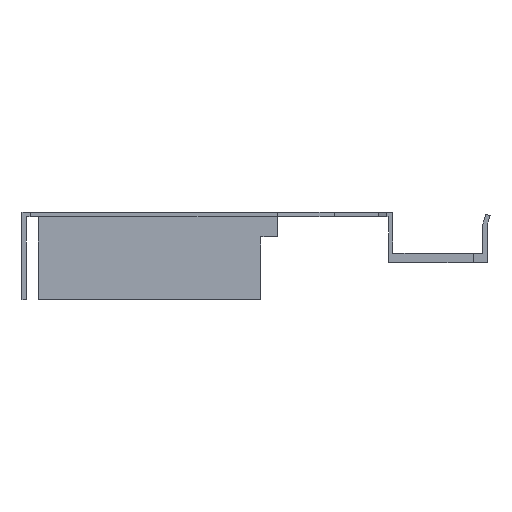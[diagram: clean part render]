
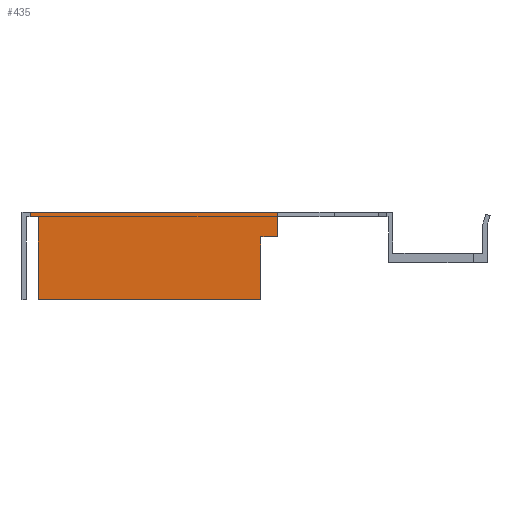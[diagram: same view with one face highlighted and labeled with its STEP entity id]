
A CAD part, left-side view. The second image highlights one B-rep face of the part: STEP entity #435.
In plain terms, the highlighted planar face has unit normal (-1, 0, 0).
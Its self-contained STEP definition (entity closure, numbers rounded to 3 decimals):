
#36 = EDGE_LOOP ( 'NONE', ( #764, #763, #762, #761, #760, #759, #758, #757 ) ) ;
#96 = FACE_OUTER_BOUND ( 'NONE', #36, .T. ) ;
#156 = LINE ( 'NONE', #1298, #157 ) ;
#157 = VECTOR ( 'NONE', #1299, 1000. ) ;
#174 = LINE ( 'NONE', #1331, #193 ) ;
#176 = LINE ( 'NONE', #1337, #197 ) ;
#183 = LINE ( 'NONE', #1327, #184 ) ;
#184 = VECTOR ( 'NONE', #1328, 1000. ) ;
#188 = LINE ( 'NONE', #1341, #201 ) ;
#191 = LINE ( 'NONE', #1335, #192 ) ;
#192 = VECTOR ( 'NONE', #1336, 1000. ) ;
#193 = VECTOR ( 'NONE', #1338, 1000. ) ;
#197 = VECTOR ( 'NONE', #1342, 1000. ) ;
#201 = VECTOR ( 'NONE', #1346, 1000. ) ;
#320 = LINE ( 'NONE', #1486, #336 ) ;
#336 = VECTOR ( 'NONE', #1499, 1000. ) ;
#379 = LINE ( 'NONE', #1545, #380 ) ;
#380 = VECTOR ( 'NONE', #1546, 1000. ) ;
#435 = ADVANCED_FACE ( 'NONE', ( #96 ), #1165, .T. ) ;
#522 = EDGE_CURVE ( 'NONE', #1060, #1030, #156, .T. ) ;
#536 = EDGE_CURVE ( 'NONE', #996, #1060, #183, .T. ) ;
#540 = EDGE_CURVE ( 'NONE', #1047, #992, #191, .T. ) ;
#541 = EDGE_CURVE ( 'NONE', #986, #1046, #174, .T. ) ;
#543 = EDGE_CURVE ( 'NONE', #1006, #996, #176, .T. ) ;
#545 = EDGE_CURVE ( 'NONE', #1030, #1046, #188, .T. ) ;
#607 = AXIS2_PLACEMENT_3D ( 'NONE', #1168, #1174, #1175 ) ;
#757 = ORIENTED_EDGE ( 'NONE', *, *, #827, .F. ) ;
#758 = ORIENTED_EDGE ( 'NONE', *, *, #541, .F. ) ;
#759 = ORIENTED_EDGE ( 'NONE', *, *, #545, .T. ) ;
#760 = ORIENTED_EDGE ( 'NONE', *, *, #522, .T. ) ;
#761 = ORIENTED_EDGE ( 'NONE', *, *, #536, .T. ) ;
#762 = ORIENTED_EDGE ( 'NONE', *, *, #543, .T. ) ;
#763 = ORIENTED_EDGE ( 'NONE', *, *, #850, .F. ) ;
#764 = ORIENTED_EDGE ( 'NONE', *, *, #540, .F. ) ;
#827 = EDGE_CURVE ( 'NONE', #992, #986, #320, .T. ) ;
#850 = EDGE_CURVE ( 'NONE', #1006, #1047, #379, .T. ) ;
#986 = VERTEX_POINT ( 'NONE', #1579 ) ;
#992 = VERTEX_POINT ( 'NONE', #1585 ) ;
#996 = VERTEX_POINT ( 'NONE', #1589 ) ;
#1006 = VERTEX_POINT ( 'NONE', #1599 ) ;
#1030 = VERTEX_POINT ( 'NONE', #1623 ) ;
#1046 = VERTEX_POINT ( 'NONE', #1639 ) ;
#1047 = VERTEX_POINT ( 'NONE', #1640 ) ;
#1060 = VERTEX_POINT ( 'NONE', #1653 ) ;
#1165 = PLANE ( 'NONE',  #607 ) ;
#1168 = CARTESIAN_POINT ( 'NONE',  ( -817., -16.5, 0. ) ) ;
#1174 = DIRECTION ( 'NONE',  ( -1., 0., 0. ) ) ;
#1175 = DIRECTION ( 'NONE',  ( 0., 0., 1. ) ) ;
#1298 = CARTESIAN_POINT ( 'NONE',  ( -817., 24.2, -8.5 ) ) ;
#1299 = DIRECTION ( 'NONE',  ( 0., 0., 1. ) ) ;
#1327 = CARTESIAN_POINT ( 'NONE',  ( -817., 65., -8.5 ) ) ;
#1328 = DIRECTION ( 'NONE',  ( 0., -1., 0. ) ) ;
#1331 = CARTESIAN_POINT ( 'NONE',  ( -817., 21.2, 0. ) ) ;
#1335 = CARTESIAN_POINT ( 'NONE',  ( -817., 66.5, 6.7 ) ) ;
#1336 = DIRECTION ( 'NONE',  ( 0., 0., 1. ) ) ;
#1337 = CARTESIAN_POINT ( 'NONE',  ( -817., 65., 7.5 ) ) ;
#1338 = DIRECTION ( 'NONE',  ( 0., 0., -1. ) ) ;
#1341 = CARTESIAN_POINT ( 'NONE',  ( -817., 24.2, 3. ) ) ;
#1342 = DIRECTION ( 'NONE',  ( 0., 0., -1. ) ) ;
#1346 = DIRECTION ( 'NONE',  ( 0., -1., 0. ) ) ;
#1486 = CARTESIAN_POINT ( 'NONE',  ( -817., 0., 7.5 ) ) ;
#1499 = DIRECTION ( 'NONE',  ( 0., -1., 0. ) ) ;
#1545 = CARTESIAN_POINT ( 'NONE',  ( -817., 0.8, 6.7 ) ) ;
#1546 = DIRECTION ( 'NONE',  ( 0., 1., 0. ) ) ;
#1579 = CARTESIAN_POINT ( 'NONE',  ( -817., 21.2, 7.5 ) ) ;
#1585 = CARTESIAN_POINT ( 'NONE',  ( -817., 66.5, 7.5 ) ) ;
#1589 = CARTESIAN_POINT ( 'NONE',  ( -817., 65., -8.5 ) ) ;
#1599 = CARTESIAN_POINT ( 'NONE',  ( -817., 65., 6.7 ) ) ;
#1623 = CARTESIAN_POINT ( 'NONE',  ( -817., 24.2, 3. ) ) ;
#1639 = CARTESIAN_POINT ( 'NONE',  ( -817., 21.2, 3. ) ) ;
#1640 = CARTESIAN_POINT ( 'NONE',  ( -817., 66.5, 6.7 ) ) ;
#1653 = CARTESIAN_POINT ( 'NONE',  ( -817., 24.2, -8.5 ) ) ;
